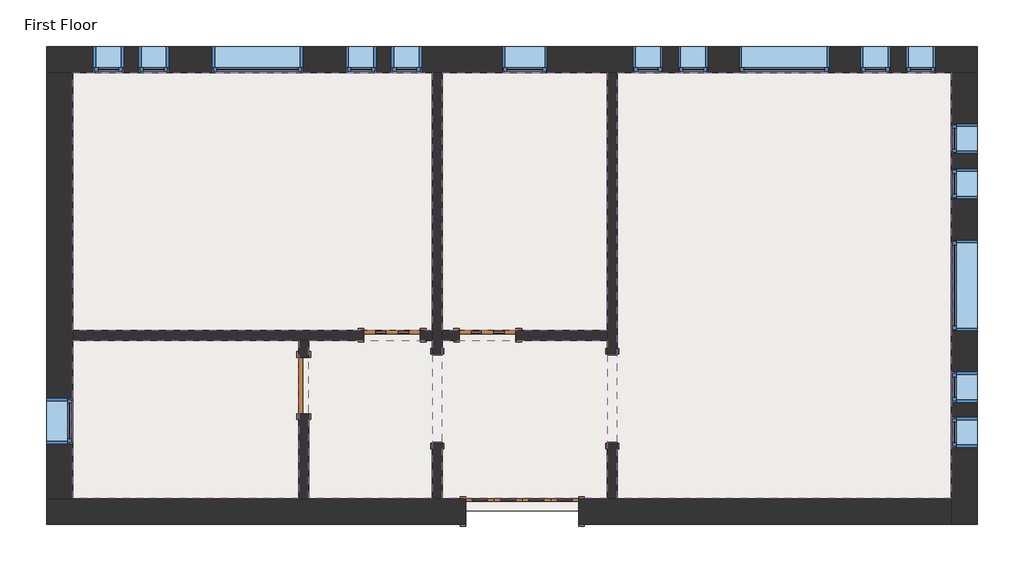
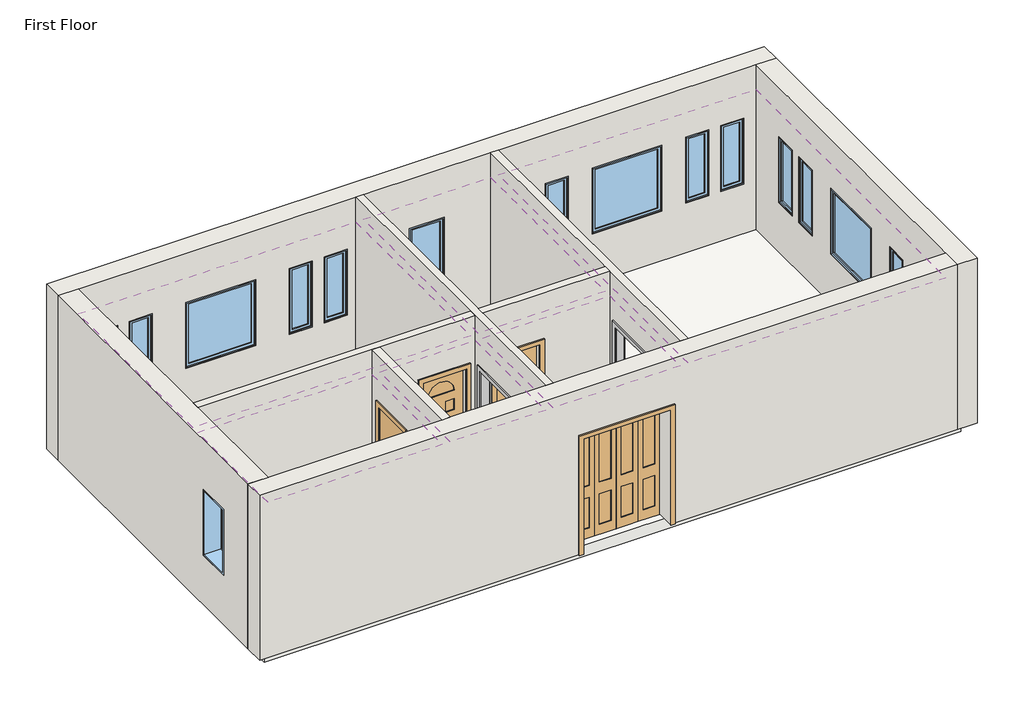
# One storey: 17 windows, 8 walls, 7 coverings, 4 doors, 2 proxies, 1 slab.
"""IFC4 building model written with IfcOpenShell, lengths in millimetres."""

from ifc_helpers import new_model, si_unit, frame, origin, place, context, project, spatial, polyline, outline, extrude, faceted_brep, transform, mapped, element, save
from components import m_passage_opening_cased_1220_x_2134mm_87a8d9c2, m_bifold_4_panel_1525_x_2134mm_1ddae71f, m_single_decorative_2_0762_x_2134mm_0d0af7cb, m_single_decorative_2_0762_x_2134mm_2fe67c8e, m_single_flush_0762_x_2134mm_0d89e411, m_fixed_0406_x_1220mm_57fee329, m_fixed_0406_x_1220mm_85c28f40, m_fixed_0610_x_1220mm_2c28ef1d, m_fixed_1220_x_1220mm_e08ff7af

model = new_model("IFC4")

# Units and contexts
model_context = context("Model", 3, world=origin())
ifc_project = project(units=[si_unit("LENGTHUNIT", "METRE", prefix="MILLI")], contexts=[model_context])

# Site, building, storey
site = spatial("IfcSite", under=ifc_project)
building = spatial("IfcBuilding", under=site)
storey = spatial("IfcBuildingStorey", under=building, Name="First Floor", Elevation=0.0)

# Proxies
placement = place(None, origin())
m_passage_opening_cased_1220_x_2134mm_shape = m_passage_opening_cased_1220_x_2134mm_87a8d9c2(model_context)
element("IfcBuildingElementProxy", 1, Name="M_Passage Opening-Cased : 1220 x 2134mm", ObjectType="M_Passage Opening-Cased : 1220 x 2134mm", at=placement, inside=storey, context=model_context, shape_type="MappedRepresentation", body=[
    mapped(m_passage_opening_cased_1220_x_2134mm_shape, transform((-7665.3416203, -1982.6925047, 0.0), x_axis=(0.0, 1.0, 0.0), y_axis=(-1.0, 0.0, 0.0), z_axis=(0.0, 0.0, 1.0))),
])
element("IfcBuildingElementProxy", 2, Name="M_Passage Opening-Cased : 1220 x 2134mm", ObjectType="M_Passage Opening-Cased : 1220 x 2134mm", at=placement, inside=storey, context=model_context, shape_type="MappedRepresentation", body=[
    mapped(m_passage_opening_cased_1220_x_2134mm_shape, transform((-10019.0916203, -1999.0698181, 0.0), x_axis=(0.0, -1.0, 0.0), y_axis=(1.0, 0.0, 0.0), z_axis=(0.0, 0.0, 1.0))),
])

# Coverings
element("IfcCovering", 3, ObjectType="Plain", at=placement, inside=storey, context=model_context, shape_type="SweptSolid", body=[
    extrude(outline(polyline([(-14935.3416203, 2406.1188386), (-10086.8416203, 2406.1188386), (-10086.8416203, -1070.3811614), (-14935.3416203, -1070.3811614), (-14935.3416203, 2406.1188386)])), frame((0.0, 0.0, 2590.0), z_axis=(0.0, 0.0, 1.0), x_axis=(1.0, 0.0, 0.0)), (0.0, 0.0, 1.0), 57.0),
])
element("IfcCovering", 4, ObjectType="Plain", at=placement, inside=storey, context=model_context, shape_type="SweptSolid", body=[
    extrude(outline(polyline([(-9951.3416203, -1070.3811614), (-9951.3416203, 2406.1188386), (-7733.0916203, 2406.1188386), (-7733.0916203, -1070.3811614), (-9951.3416203, -1070.3811614)])), frame((0.0, 0.0, 2590.0), z_axis=(0.0, 0.0, 1.0), x_axis=(1.0, 0.0, 0.0)), (0.0, 0.0, 1.0), 57.0),
])
element("IfcCovering", 5, ObjectType="Plain", at=placement, inside=storey, context=model_context, shape_type="SweptSolid", body=[
    extrude(outline(polyline([(-7597.5916203, -3339.8811614), (-7597.5916203, 2406.1188386), (-3093.3416203, 2406.1188386), (-3093.3416203, -3339.8811614), (-7597.5916203, -3339.8811614)])), frame((0.0, 0.0, 2590.0), z_axis=(0.0, 0.0, 1.0), x_axis=(1.0, 0.0, 0.0)), (0.0, 0.0, 1.0), 57.0),
])
element("IfcCovering", 6, ObjectType="Plain", at=placement, inside=storey, context=model_context, shape_type="SweptSolid", body=[
    extrude(outline(polyline([(-7733.0916203, -3339.8811614), (-9951.3416203, -3339.8811614), (-9951.3416203, -1205.8811614), (-7733.0916203, -1205.8811614), (-7733.0916203, -3339.8811614)])), frame((0.0, 0.0, 2590.0), z_axis=(0.0, 0.0, 1.0), x_axis=(1.0, 0.0, 0.0)), (0.0, 0.0, 1.0), 57.0),
])
element("IfcCovering", 7, ObjectType="Plain", at=placement, inside=storey, context=model_context, shape_type="SweptSolid", body=[
    extrude(outline(polyline([(-11887.3416203, -1205.8811614), (-11887.3416203, -3339.8811614), (-14935.3416203, -3339.8811614), (-14935.3416203, -1205.8811614), (-11887.3416203, -1205.8811614)])), frame((0.0, 0.0, 2590.0), z_axis=(0.0, 0.0, 1.0), x_axis=(1.0, 0.0, 0.0)), (0.0, 0.0, 1.0), 57.0),
])
element("IfcCovering", 8, ObjectType="Plain", at=placement, inside=storey, context=model_context, shape_type="SweptSolid", body=[
    extrude(outline(polyline([(-10086.8416203, -3339.8811614), (-11751.8416203, -3339.8811614), (-11751.8416203, -1205.8811614), (-10086.8416203, -1205.8811614), (-10086.8416203, -3339.8811614)])), frame((0.0, 0.0, 2590.0), z_axis=(0.0, 0.0, 1.0), x_axis=(1.0, 0.0, 0.0)), (0.0, 0.0, 1.0), 57.0),
])
element("IfcCovering", 9, ObjectType="Plain", at=placement, inside=storey, context=model_context, shape_type="SweptSolid", body=[
    extrude(outline(polyline([(-14935.3416203, 2406.1188386), (-10086.8416203, 2406.1188386), (-10086.8416203, -1070.3811614), (-14935.3416203, -1070.3811614), (-14935.3416203, 2406.1188386)])), frame((0.0, 0.0, 2590.0), z_axis=(0.0, 0.0, 1.0), x_axis=(1.0, 0.0, 0.0)), (0.0, 0.0, 1.0), 57.0),
])

# Doors
m_bifold_4_panel_1525_x_2134mm_shape = m_bifold_4_panel_1525_x_2134mm_1ddae71f(model_context)
element("IfcDoor", 10, ObjectType="M_Bifold-4 Panel : 1525 x 2134mm", at=placement, inside=storey, context=model_context, shape_type="MappedRepresentation", body=[
    mapped(m_bifold_4_panel_1525_x_2134mm_shape, transform((-8876.0916203, -3514.8811614, 0.0), x_axis=(1.0, 0.0, 0.0), y_axis=(0.0, 1.0, 0.0), z_axis=(0.0, 0.0, 1.0))),
])
m_single_decorative_2_0762_x_2134mm_shape = m_single_decorative_2_0762_x_2134mm_0d0af7cb(model_context)
element("IfcDoor", 11, ObjectType="M_Single-Decorative 2 : 0762 x 2134mm", at=placement, inside=storey, context=model_context, shape_type="MappedRepresentation", body=[
    mapped(m_single_decorative_2_0762_x_2134mm_shape, transform((-9342.3416203, -1138.1311614, 0.0), x_axis=(-1.0, 0.0, 0.0), y_axis=(0.0, -1.0, 0.0), z_axis=(0.0, 0.0, 1.0))),
])
m_single_decorative_2_0762_x_2134mm_2_shape = m_single_decorative_2_0762_x_2134mm_2fe67c8e(model_context)
element("IfcDoor", 12, ObjectType="M_Single-Decorative 2 : 0762 x 2134mm", at=placement, inside=storey, context=model_context, shape_type="MappedRepresentation", body=[
    mapped(m_single_decorative_2_0762_x_2134mm_2_shape, transform((-10629.0916203, -1138.1311614, 0.0), x_axis=(1.0, 0.0, 0.0), y_axis=(0.0, 1.0, 0.0), z_axis=(0.0, 0.0, 1.0))),
])
m_single_flush_0762_x_2134mm_shape = m_single_flush_0762_x_2134mm_0d89e411(model_context)
element("IfcDoor", 13, ObjectType="M_Single-Flush : 0762 x 2134mm", at=placement, inside=storey, context=model_context, shape_type="MappedRepresentation", body=[
    mapped(m_single_flush_0762_x_2134mm_shape, transform((-11819.5916203, -1815.8811614, 0.0), x_axis=(0.0, 1.0, 0.0), y_axis=(-1.0, 0.0, 0.0), z_axis=(0.0, 0.0, 1.0))),
])

# Slab
element("IfcSlab", 14, ObjectType="160mm Concrete With 50mm Metal Deck", at=placement, inside=storey, context=model_context, shape_type="SweptSolid", body=[
    extrude(outline(polyline([(-2928.3416203, 2571.1188386), (-2928.3416203, -3504.8811614), (-15100.3416203, -3504.8811614), (-15100.3416203, 2571.1188386), (-2928.3416203, 2571.1188386)])), frame((0.0, 0.0, -210.0), z_axis=(0.0, 0.0, 1.0), x_axis=(1.0, 0.0, 0.0)), (0.0, 0.0, 1.0), 210.0),
])

# Walls
element("IfcWall", 15, ObjectType="Exterior - Brick on Mtl. Stud", at=placement, inside=storey, context=model_context, shape_type="Brep", body=[
    faceted_brep([(-15285.3416203, 2406.1188386, 0.0), (-15100.3416203, 2406.1188386, 0.0), (-14935.3416203, 2406.1188386, 0.0), (-10086.8416203, 2406.1188386, 0.0), (-9951.3416203, 2406.1188386, 0.0), (-7733.0916203, 2406.1188386, 0.0), (-7597.5916203, 2406.1188386, 0.0), (-3093.3416203, 2406.1188386, 0.0), (-2928.3416203, 2406.1188386, 0.0), (-2743.3416203, 2406.1188386, 0.0), (-2743.3416203, 2406.1188386, 3048.0), (-3093.3416203, 2406.1188386, 3048.0), (-7597.5916203, 2406.1188386, 3048.0), (-7733.0916203, 2406.1188386, 3048.0), (-9951.3416203, 2406.1188386, 3048.0), (-10086.8416203, 2406.1188386, 3048.0), (-14935.3416203, 2406.1188386, 3048.0), (-15285.3416203, 2406.1188386, 3048.0), (-8537.1916203, 2406.1188386, 915.0), (-9147.1916203, 2406.1188386, 915.0), (-9147.1916203, 2406.1188386, 2135.0), (-8537.1916203, 2406.1188386, 2135.0), (-11833.3416203, 2406.1188386, 915.0), (-13053.3416203, 2406.1188386, 915.0), (-13053.3416203, 2406.1188386, 2135.0), (-11833.3416203, 2406.1188386, 2135.0), (-4735.4666203, 2406.1188386, 915.0), (-5955.4666203, 2406.1188386, 915.0), (-5955.4666203, 2406.1188386, 2135.0), (-4735.4666203, 2406.1188386, 2135.0), (-14247.3416203, 2406.1188386, 915.0), (-14653.3416203, 2406.1188386, 915.0), (-14653.3416203, 2406.1188386, 2135.0), (-14247.3416203, 2406.1188386, 2135.0), (-13637.3416203, 2406.1188386, 915.0), (-14043.3416203, 2406.1188386, 915.0), (-14043.3416203, 2406.1188386, 2135.0), (-13637.3416203, 2406.1188386, 2135.0), (-11249.3416203, 2406.1188386, 915.0), (-11249.3416203, 2406.1188386, 2135.0), (-10843.3416203, 2406.1188386, 2135.0), (-10843.3416203, 2406.1188386, 915.0), (-10639.3416203, 2406.1188386, 915.0), (-10639.3416203, 2406.1188386, 2135.0), (-10233.3416203, 2406.1188386, 2135.0), (-10233.3416203, 2406.1188386, 915.0), (-6370.3416203, 2406.1188386, 915.0), (-6776.3416203, 2406.1188386, 915.0), (-6776.3416203, 2406.1188386, 2135.0), (-6370.3416203, 2406.1188386, 2135.0), (-6980.3416203, 2406.1188386, 915.0), (-7386.3416203, 2406.1188386, 915.0), (-7386.3416203, 2406.1188386, 2135.0), (-6980.3416203, 2406.1188386, 2135.0), (-4320.5916203, 2406.1188386, 915.0), (-4320.5916203, 2406.1188386, 2135.0), (-3914.5916203, 2406.1188386, 2135.0), (-3914.5916203, 2406.1188386, 915.0), (-3710.5916203, 2406.1188386, 915.0), (-3710.5916203, 2406.1188386, 2135.0), (-3304.5916203, 2406.1188386, 2135.0), (-3304.5916203, 2406.1188386, 915.0), (-15285.3416203, 2756.1188386, 0.0), (-15285.3416203, 2756.1188386, 3048.0), (-2743.3416203, 2756.1188386, 3048.0), (-2743.3416203, 2756.1188386, 0.0), (-2928.3416203, 2756.1188386, 0.0), (-15100.3416203, 2756.1188386, 0.0), (-8537.1916203, 2756.1188386, 915.0), (-8537.1916203, 2756.1188386, 2135.0), (-9147.1916203, 2756.1188386, 2135.0), (-9147.1916203, 2756.1188386, 915.0), (-11833.3416203, 2756.1188386, 915.0), (-11833.3416203, 2756.1188386, 2135.0), (-13053.3416203, 2756.1188386, 2135.0), (-13053.3416203, 2756.1188386, 915.0), (-4735.4666203, 2756.1188386, 915.0), (-4735.4666203, 2756.1188386, 2135.0), (-5955.4666203, 2756.1188386, 2135.0), (-5955.4666203, 2756.1188386, 915.0), (-14247.3416203, 2756.1188386, 915.0), (-14247.3416203, 2756.1188386, 2135.0), (-14653.3416203, 2756.1188386, 2135.0), (-14653.3416203, 2756.1188386, 915.0), (-13637.3416203, 2756.1188386, 915.0), (-13637.3416203, 2756.1188386, 2135.0), (-14043.3416203, 2756.1188386, 2135.0), (-14043.3416203, 2756.1188386, 915.0), (-11249.3416203, 2756.1188386, 915.0), (-10843.3416203, 2756.1188386, 915.0), (-10843.3416203, 2756.1188386, 2135.0), (-11249.3416203, 2756.1188386, 2135.0), (-10639.3416203, 2756.1188386, 915.0), (-10233.3416203, 2756.1188386, 915.0), (-10233.3416203, 2756.1188386, 2135.0), (-10639.3416203, 2756.1188386, 2135.0), (-6370.3416203, 2756.1188386, 915.0), (-6370.3416203, 2756.1188386, 2135.0), (-6776.3416203, 2756.1188386, 2135.0), (-6776.3416203, 2756.1188386, 915.0), (-6980.3416203, 2756.1188386, 915.0), (-6980.3416203, 2756.1188386, 2135.0), (-7386.3416203, 2756.1188386, 2135.0), (-7386.3416203, 2756.1188386, 915.0), (-4320.5916203, 2756.1188386, 915.0), (-3914.5916203, 2756.1188386, 915.0), (-3914.5916203, 2756.1188386, 2135.0), (-4320.5916203, 2756.1188386, 2135.0), (-3710.5916203, 2756.1188386, 915.0), (-3304.5916203, 2756.1188386, 915.0), (-3304.5916203, 2756.1188386, 2135.0), (-3710.5916203, 2756.1188386, 2135.0), (-2743.3416203, 2571.1188386, 0.0), (-15285.3416203, 2571.1188386, 0.0), (-15100.3416203, 2571.1188386, 0.0), (-2928.3416203, 2571.1188386, 0.0)], [[[0, 1, 2, 3, 4, 5, 6, 7, 8, 9, 10, 11, 12, 13, 14, 15, 16, 17], [18, 19, 20, 21], [22, 23, 24, 25], [26, 27, 28, 29], [30, 31, 32, 33], [34, 35, 36, 37], [38, 39, 40, 41], [42, 43, 44, 45], [46, 47, 48, 49], [50, 51, 52, 53], [54, 55, 56, 57], [58, 59, 60, 61]], [[62, 63, 64, 65, 66, 67], [68, 69, 70, 71], [72, 73, 74, 75], [76, 77, 78, 79], [80, 81, 82, 83], [84, 85, 86, 87], [88, 89, 90, 91], [92, 93, 94, 95], [96, 97, 98, 99], [100, 101, 102, 103], [104, 105, 106, 107], [108, 109, 110, 111]], [[17, 16, 15, 14, 13, 12, 11, 10, 64, 63]], [[10, 9, 112, 65, 64]], [[0, 17, 63, 62, 113]], [[69, 68, 18, 21]], [[70, 69, 21, 20]], [[71, 70, 20, 19]], [[68, 71, 19, 18]], [[73, 72, 22, 25]], [[74, 73, 25, 24]], [[75, 74, 24, 23]], [[72, 75, 23, 22]], [[77, 76, 26, 29]], [[78, 77, 29, 28]], [[79, 78, 28, 27]], [[76, 79, 27, 26]], [[81, 80, 30, 33]], [[82, 81, 33, 32]], [[83, 82, 32, 31]], [[80, 83, 31, 30]], [[85, 84, 34, 37]], [[86, 85, 37, 36]], [[87, 86, 36, 35]], [[84, 87, 35, 34]], [[39, 38, 88, 91]], [[40, 39, 91, 90]], [[41, 40, 90, 89]], [[38, 41, 89, 88]], [[43, 42, 92, 95]], [[44, 43, 95, 94]], [[45, 44, 94, 93]], [[42, 45, 93, 92]], [[97, 96, 46, 49]], [[98, 97, 49, 48]], [[99, 98, 48, 47]], [[96, 99, 47, 46]], [[101, 100, 50, 53]], [[102, 101, 53, 52]], [[103, 102, 52, 51]], [[100, 103, 51, 50]], [[55, 54, 104, 107]], [[56, 55, 107, 106]], [[57, 56, 106, 105]], [[54, 57, 105, 104]], [[59, 58, 108, 111]], [[60, 59, 111, 110]], [[61, 60, 110, 109]], [[58, 61, 109, 108]], [[1, 0, 113, 114]], [[113, 62, 67, 114]], [[9, 8, 115, 112]], [[67, 66, 115, 114]], [[66, 65, 112, 115]], [[8, 7, 6, 5, 4, 3, 2, 1, 114, 115]]]),
])
element("IfcWall", 16, ObjectType="Exterior - Brick on Mtl. Stud", at=placement, inside=storey, context=model_context, shape_type="Brep", body=[
    faceted_brep([(-3093.3416203, 2406.1188386, 0.0), (-3093.3416203, -3339.8811614, 0.0), (-3093.3416203, -3504.8811614, 0.0), (-3093.3416203, -3689.8811614, 0.0), (-3093.3416203, -3689.8811614, 3048.0), (-3093.3416203, -3339.8811614, 3048.0), (-3093.3416203, 2406.1188386, 3048.0), (-3093.3416203, -1076.8811614, 915.0), (-3093.3416203, 143.1188386, 915.0), (-3093.3416203, 143.1188386, 2135.0), (-3093.3416203, -1076.8811614, 2135.0), (-3093.3416203, 701.1188386, 915.0), (-3093.3416203, 1107.1188386, 915.0), (-3093.3416203, 1107.1188386, 2135.0), (-3093.3416203, 701.1188386, 2135.0), (-3093.3416203, 1311.1188386, 915.0), (-3093.3416203, 1717.1188386, 915.0), (-3093.3416203, 1717.1188386, 2135.0), (-3093.3416203, 1311.1188386, 2135.0), (-3093.3416203, -1634.8811614, 915.0), (-3093.3416203, -1634.8811614, 2135.0), (-3093.3416203, -2040.8811614, 2135.0), (-3093.3416203, -2040.8811614, 915.0), (-3093.3416203, -2244.8811614, 915.0), (-3093.3416203, -2244.8811614, 2135.0), (-3093.3416203, -2650.8811614, 2135.0), (-3093.3416203, -2650.8811614, 915.0), (-2743.3416203, 2406.1188386, 0.0), (-2743.3416203, 2406.1188386, 3048.0), (-2743.3416203, -3689.8811614, 3048.0), (-2743.3416203, -3689.8811614, 0.0), (-2743.3416203, -3504.8811614, 0.0), (-2743.3416203, -1076.8811614, 915.0), (-2743.3416203, -1076.8811614, 2135.0), (-2743.3416203, 143.1188386, 2135.0), (-2743.3416203, 143.1188386, 915.0), (-2743.3416203, 701.1188386, 915.0), (-2743.3416203, 701.1188386, 2135.0), (-2743.3416203, 1107.1188386, 2135.0), (-2743.3416203, 1107.1188386, 915.0), (-2743.3416203, 1311.1188386, 915.0), (-2743.3416203, 1311.1188386, 2135.0), (-2743.3416203, 1717.1188386, 2135.0), (-2743.3416203, 1717.1188386, 915.0), (-2743.3416203, -1634.8811614, 915.0), (-2743.3416203, -2040.8811614, 915.0), (-2743.3416203, -2040.8811614, 2135.0), (-2743.3416203, -1634.8811614, 2135.0), (-2743.3416203, -2244.8811614, 915.0), (-2743.3416203, -2650.8811614, 915.0), (-2743.3416203, -2650.8811614, 2135.0), (-2743.3416203, -2244.8811614, 2135.0), (-2928.3416203, 2406.1188386, 0.0), (-2928.3416203, -3689.8811614, 0.0), (-2928.3416203, -3504.8811614, 0.0)], [[[0, 1, 2, 3, 4, 5, 6], [7, 8, 9, 10], [11, 12, 13, 14], [15, 16, 17, 18], [19, 20, 21, 22], [23, 24, 25, 26]], [[27, 28, 29, 30, 31], [32, 33, 34, 35], [36, 37, 38, 39], [40, 41, 42, 43], [44, 45, 46, 47], [48, 49, 50, 51]], [[6, 5, 4, 29, 28]], [[0, 6, 28, 27, 52]], [[4, 3, 53, 30, 29]], [[33, 32, 7, 10]], [[34, 33, 10, 9]], [[35, 34, 9, 8]], [[32, 35, 8, 7]], [[37, 36, 11, 14]], [[38, 37, 14, 13]], [[39, 38, 13, 12]], [[36, 39, 12, 11]], [[41, 40, 15, 18]], [[42, 41, 18, 17]], [[43, 42, 17, 16]], [[40, 43, 16, 15]], [[20, 19, 44, 47]], [[21, 20, 47, 46]], [[22, 21, 46, 45]], [[19, 22, 45, 44]], [[24, 23, 48, 51]], [[25, 24, 51, 50]], [[26, 25, 50, 49]], [[23, 26, 49, 48]], [[52, 27, 31, 54]], [[3, 2, 54, 53]], [[54, 31, 30, 53]], [[2, 1, 0, 52, 54]]]),
])
element("IfcWall", 17, ObjectType="Exterior - Brick on Mtl. Stud", at=placement, inside=storey, context=model_context, shape_type="Brep", body=[
    faceted_brep([(-15285.3416203, -3339.8811614, 3048.0), (-14935.3416203, -3339.8811614, 3048.0), (-11887.3416203, -3339.8811614, 3048.0), (-11751.8416203, -3339.8811614, 3048.0), (-10086.8416203, -3339.8811614, 3048.0), (-9951.3416203, -3339.8811614, 3048.0), (-7733.0916203, -3339.8811614, 3048.0), (-7597.5916203, -3339.8811614, 3048.0), (-3093.3416203, -3339.8811614, 3048.0), (-3093.3416203, -3339.8811614, 0.0), (-7597.5916203, -3339.8811614, 0.0), (-7733.0916203, -3339.8811614, 0.0), (-8113.5916203, -3339.8811614, 0.0), (-8113.5916203, -3339.8811614, 2134.0), (-9638.5916203, -3339.8811614, 2134.0), (-9638.5916203, -3339.8811614, 0.0), (-9951.3416203, -3339.8811614, 0.0), (-10086.8416203, -3339.8811614, 0.0), (-11751.8416203, -3339.8811614, 0.0), (-11887.3416203, -3339.8811614, 0.0), (-14935.3416203, -3339.8811614, 0.0), (-15285.3416203, -3339.8811614, 0.0), (-3093.3416203, -3689.8811614, 3048.0), (-15285.3416203, -3689.8811614, 3048.0), (-15285.3416203, -3689.8811614, 0.0), (-9638.5916203, -3689.8811614, 0.0), (-9638.5916203, -3689.8811614, 2134.0), (-8113.5916203, -3689.8811614, 2134.0), (-8113.5916203, -3689.8811614, 0.0), (-3093.3416203, -3689.8811614, 0.0)], [[[0, 1, 2, 3, 4, 5, 6, 7, 8, 9, 10, 11, 12, 13, 14, 15, 16, 17, 18, 19, 20, 21]], [[22, 23, 24, 25, 26, 27, 28, 29]], [[9, 29, 28, 12, 11, 10]], [[24, 21, 20, 19, 18, 17, 16, 15, 25]], [[8, 7, 6, 5, 4, 3, 2, 1, 0, 23, 22]], [[9, 8, 22, 29]], [[0, 21, 24, 23]], [[27, 13, 12, 28]], [[13, 27, 26, 14]], [[14, 26, 25, 15]]]),
])
element("IfcWall", 18, ObjectType="Exterior - Brick on Mtl. Stud", at=placement, inside=storey, context=model_context, shape_type="Brep", body=[
    faceted_brep([(-14935.3416203, -3339.8811614, 0.0), (-14935.3416203, -1205.8811614, 0.0), (-14935.3416203, -1070.3811614, 0.0), (-14935.3416203, 2406.1188386, 0.0), (-14935.3416203, 2406.1188386, 3048.0), (-14935.3416203, -1070.3811614, 3048.0), (-14935.3416203, -1205.8811614, 3048.0), (-14935.3416203, -3339.8811614, 3048.0), (-14935.3416203, -1989.8811614, 915.0), (-14935.3416203, -2599.8811614, 915.0), (-14935.3416203, -2599.8811614, 2135.0), (-14935.3416203, -1989.8811614, 2135.0), (-15285.3416203, -3339.8811614, 0.0), (-15285.3416203, -3339.8811614, 3048.0), (-15285.3416203, 2406.1188386, 3048.0), (-15285.3416203, 2406.1188386, 0.0), (-15285.3416203, -1989.8811614, 915.0), (-15285.3416203, -1989.8811614, 2135.0), (-15285.3416203, -2599.8811614, 2135.0), (-15285.3416203, -2599.8811614, 915.0), (-15100.3416203, -3339.8811614, 0.0), (-15100.3416203, 2406.1188386, 0.0)], [[[0, 1, 2, 3, 4, 5, 6, 7], [8, 9, 10, 11]], [[12, 13, 14, 15], [16, 17, 18, 19]], [[7, 6, 5, 4, 14, 13]], [[0, 7, 13, 12, 20]], [[4, 3, 21, 15, 14]], [[17, 16, 8, 11]], [[18, 17, 11, 10]], [[19, 18, 10, 9]], [[16, 19, 9, 8]], [[20, 12, 15, 21]], [[3, 2, 1, 0, 20, 21]]]),
])
element("IfcWall", 19, ObjectType="Interior - 135mm Partition (2-hr)", at=placement, inside=storey, context=model_context, shape_type="Brep", body=[
    faceted_brep([(-7733.0916203, 2406.1188386, 0.0), (-7733.0916203, -1070.3811614, 0.0), (-7733.0916203, -1205.8811614, 0.0), (-7733.0916203, -1380.8811614, 0.0), (-7733.0916203, -1380.8811614, 2134.0), (-7733.0916203, -2600.8811614, 2134.0), (-7733.0916203, -2600.8811614, 0.0), (-7733.0916203, -3339.8811614, 0.0), (-7733.0916203, -3339.8811614, 3048.0), (-7733.0916203, -1205.8811614, 3048.0), (-7733.0916203, -1070.3811614, 3048.0), (-7733.0916203, 2406.1188386, 3048.0), (-7597.5916203, -1380.8811614, 2134.0), (-7597.5916203, -1380.8811614, 0.0), (-7597.5916203, 2406.1188386, 0.0), (-7597.5916203, 2406.1188386, 3048.0), (-7597.5916203, -3339.8811614, 3048.0), (-7597.5916203, -3339.8811614, 0.0), (-7597.5916203, -2600.8811614, 0.0), (-7597.5916203, -2600.8811614, 2134.0)], [[[0, 1, 2, 3, 4, 5, 6, 7, 8, 9, 10, 11]], [[12, 13, 14, 15, 16, 17, 18, 19]], [[18, 17, 7, 6]], [[14, 13, 3, 2, 1, 0]], [[11, 10, 9, 8, 16, 15]], [[0, 11, 15, 14]], [[8, 7, 17, 16]], [[6, 5, 19, 18]], [[4, 3, 13, 12]], [[5, 4, 12, 19]]]),
])
element("IfcWall", 20, ObjectType="Interior - 135mm Partition (2-hr)", at=placement, inside=storey, context=model_context, shape_type="Brep", body=[
    faceted_brep([(-10086.8416203, -2600.8811614, 2134.0), (-10086.8416203, -2600.8811614, 0.0), (-10086.8416203, -3339.8811614, 0.0), (-10086.8416203, -3339.8811614, 3048.0), (-10086.8416203, -1205.8811614, 3048.0), (-10086.8416203, -1070.3811614, 3048.0), (-10086.8416203, 2406.1188386, 3048.0), (-10086.8416203, 2406.1188386, 0.0), (-10086.8416203, -1070.3811614, 0.0), (-10086.8416203, -1205.8811614, 0.0), (-10086.8416203, -1380.8811614, 0.0), (-10086.8416203, -1380.8811614, 2134.0), (-9951.3416203, -3339.8811614, 0.0), (-9951.3416203, -2600.8811614, 0.0), (-9951.3416203, -2600.8811614, 2134.0), (-9951.3416203, -1380.8811614, 2134.0), (-9951.3416203, -1380.8811614, 0.0), (-9951.3416203, -1205.8811614, 0.0), (-9951.3416203, -1070.3811614, 0.0), (-9951.3416203, 2406.1188386, 0.0), (-9951.3416203, 2406.1188386, 3048.0), (-9951.3416203, -1070.3811614, 3048.0), (-9951.3416203, -1205.8811614, 3048.0), (-9951.3416203, -3339.8811614, 3048.0)], [[[0, 1, 2, 3, 4, 5, 6, 7, 8, 9, 10, 11]], [[12, 13, 14, 15, 16, 17, 18, 19, 20, 21, 22, 23]], [[2, 1, 13, 12]], [[10, 9, 8, 7, 19, 18, 17, 16]], [[6, 5, 4, 3, 23, 22, 21, 20]], [[7, 6, 20, 19]], [[3, 2, 12, 23]], [[16, 15, 11, 10]], [[14, 13, 1, 0]], [[15, 14, 0, 11]]]),
])
element("IfcWall", 21, ObjectType="Interior - 135mm Partition (2-hr)", at=placement, inside=storey, context=model_context, shape_type="Brep", body=[
    faceted_brep([(-14935.3416203, -1205.8811614, 3048.0), (-14935.3416203, -1205.8811614, 0.0), (-11887.3416203, -1205.8811614, 0.0), (-11751.8416203, -1205.8811614, 0.0), (-11010.0916203, -1205.8811614, 0.0), (-11010.0916203, -1205.8811614, 2134.0), (-10248.0916203, -1205.8811614, 2134.0), (-10248.0916203, -1205.8811614, 0.0), (-10086.8416203, -1205.8811614, 0.0), (-10086.8416203, -1205.8811614, 3048.0), (-11751.8416203, -1205.8811614, 3048.0), (-11887.3416203, -1205.8811614, 3048.0), (-14935.3416203, -1070.3811614, 0.0), (-14935.3416203, -1070.3811614, 3048.0), (-10086.8416203, -1070.3811614, 3048.0), (-10086.8416203, -1070.3811614, 0.0), (-10248.0916203, -1070.3811614, 0.0), (-10248.0916203, -1070.3811614, 2134.0), (-11010.0916203, -1070.3811614, 2134.0), (-11010.0916203, -1070.3811614, 0.0)], [[[0, 1, 2, 3, 4, 5, 6, 7, 8, 9, 10, 11]], [[12, 13, 14, 15, 16, 17, 18, 19]], [[1, 12, 19, 4, 3, 2]], [[7, 16, 15, 8]], [[13, 0, 11, 10, 9, 14]], [[1, 0, 13, 12]], [[9, 8, 15, 14]], [[17, 16, 7, 6]], [[18, 17, 6, 5]], [[19, 18, 5, 4]]]),
    faceted_brep([(-7733.0916203, -1205.8811614, 0.0), (-7733.0916203, -1205.8811614, 3048.0), (-9951.3416203, -1205.8811614, 3048.0), (-9951.3416203, -1205.8811614, 0.0), (-9723.3416203, -1205.8811614, 0.0), (-9723.3416203, -1205.8811614, 2134.0), (-8961.3416203, -1205.8811614, 2134.0), (-8961.3416203, -1205.8811614, 0.0), (-7733.0916203, -1070.3811614, 3048.0), (-7733.0916203, -1070.3811614, 0.0), (-8961.3416203, -1070.3811614, 0.0), (-8961.3416203, -1070.3811614, 2134.0), (-9723.3416203, -1070.3811614, 2134.0), (-9723.3416203, -1070.3811614, 0.0), (-9951.3416203, -1070.3811614, 0.0), (-9951.3416203, -1070.3811614, 3048.0)], [[[0, 1, 2, 3, 4, 5, 6, 7]], [[8, 9, 10, 11, 12, 13, 14, 15]], [[9, 0, 7, 10]], [[13, 4, 3, 14]], [[1, 8, 15, 2]], [[1, 0, 9, 8]], [[3, 2, 15, 14]], [[5, 4, 13, 12]], [[6, 5, 12, 11]], [[7, 6, 11, 10]]]),
])
element("IfcWall", 22, ObjectType="Interior - 135mm Partition (2-hr)", at=placement, inside=storey, context=model_context, shape_type="SweptSolid", body=[
    extrude(outline(polyline([(-1205.8811614, 0.0), (-1434.8811614, 0.0), (-1434.8811614, 2134.0), (-2196.8811614, 2134.0), (-2196.8811614, 0.0), (-3339.8811614, 0.0), (-3339.8811614, 3048.0), (-1205.8811614, 3048.0), (-1205.8811614, 0.0)])), frame((-11887.3416203, 0.0, 0.0), z_axis=(1.0, 0.0, 0.0), x_axis=(0.0, 1.0, 0.0)), (0.0, 0.0, 1.0), 135.5),
])

# Windows
m_fixed_0406_x_1220mm_shape = m_fixed_0406_x_1220mm_57fee329(model_context)
element("IfcWindow", 23, ObjectType="M_Fixed : 0406 x 1220mm", at=placement, inside=storey, context=model_context, shape_type="MappedRepresentation", body=[
    mapped(m_fixed_0406_x_1220mm_shape, transform((-14450.3416203, 2594.1188386, 0.0), x_axis=(-1.0, 0.0, 0.0), y_axis=(0.0, -1.0, 0.0), z_axis=(0.0, 0.0, 1.0))),
])
element("IfcWindow", 24, ObjectType="M_Fixed : 0406 x 1220mm", at=placement, inside=storey, context=model_context, shape_type="MappedRepresentation", body=[
    mapped(m_fixed_0406_x_1220mm_shape, transform((-13840.3416203, 2594.1188386, 0.0), x_axis=(-1.0, 0.0, 0.0), y_axis=(0.0, -1.0, 0.0), z_axis=(0.0, 0.0, 1.0))),
])
element("IfcWindow", 25, ObjectType="M_Fixed : 0406 x 1220mm", at=placement, inside=storey, context=model_context, shape_type="MappedRepresentation", body=[
    mapped(m_fixed_0406_x_1220mm_shape, transform((-7183.3416203, 2594.1188386, 0.0), x_axis=(-1.0, 0.0, 0.0), y_axis=(0.0, -1.0, 0.0), z_axis=(0.0, 0.0, 1.0))),
])
element("IfcWindow", 26, ObjectType="M_Fixed : 0406 x 1220mm", at=placement, inside=storey, context=model_context, shape_type="MappedRepresentation", body=[
    mapped(m_fixed_0406_x_1220mm_shape, transform((-6573.3416203, 2594.1188386, 0.0), x_axis=(-1.0, 0.0, 0.0), y_axis=(0.0, -1.0, 0.0), z_axis=(0.0, 0.0, 1.0))),
])
element("IfcWindow", 27, ObjectType="M_Fixed : 0406 x 1220mm", at=placement, inside=storey, context=model_context, shape_type="MappedRepresentation", body=[
    mapped(m_fixed_0406_x_1220mm_shape, transform((-2905.3416203, 1514.1188386, 0.0), x_axis=(0.0, 1.0, 0.0), y_axis=(-1.0, 0.0, 0.0), z_axis=(0.0, 0.0, 1.0))),
])
element("IfcWindow", 28, ObjectType="M_Fixed : 0406 x 1220mm", at=placement, inside=storey, context=model_context, shape_type="MappedRepresentation", body=[
    mapped(m_fixed_0406_x_1220mm_shape, transform((-2905.3416203, 904.1188386, 0.0), x_axis=(0.0, 1.0, 0.0), y_axis=(-1.0, 0.0, 0.0), z_axis=(0.0, 0.0, 1.0))),
])
m_fixed_0406_x_1220mm_2_shape = m_fixed_0406_x_1220mm_85c28f40(model_context)
element("IfcWindow", 29, ObjectType="M_Fixed : 0406 x 1220mm", at=placement, inside=storey, context=model_context, shape_type="MappedRepresentation", body=[
    mapped(m_fixed_0406_x_1220mm_2_shape, transform((-10436.3416203, 2594.1188386, 0.0), x_axis=(1.0, 0.0, 0.0), y_axis=(0.0, 1.0, 0.0), z_axis=(0.0, 0.0, 1.0))),
])
element("IfcWindow", 30, ObjectType="M_Fixed : 0406 x 1220mm", at=placement, inside=storey, context=model_context, shape_type="MappedRepresentation", body=[
    mapped(m_fixed_0406_x_1220mm_2_shape, transform((-11046.3416203, 2594.1188386, 0.0), x_axis=(1.0, 0.0, 0.0), y_axis=(0.0, 1.0, 0.0), z_axis=(0.0, 0.0, 1.0))),
])
element("IfcWindow", 31, ObjectType="M_Fixed : 0406 x 1220mm", at=placement, inside=storey, context=model_context, shape_type="MappedRepresentation", body=[
    mapped(m_fixed_0406_x_1220mm_2_shape, transform((-3507.5916203, 2594.1188386, 0.0), x_axis=(1.0, 0.0, 0.0), y_axis=(0.0, 1.0, 0.0), z_axis=(0.0, 0.0, 1.0))),
])
element("IfcWindow", 32, ObjectType="M_Fixed : 0406 x 1220mm", at=placement, inside=storey, context=model_context, shape_type="MappedRepresentation", body=[
    mapped(m_fixed_0406_x_1220mm_2_shape, transform((-4117.5916203, 2594.1188386, 0.0), x_axis=(1.0, 0.0, 0.0), y_axis=(0.0, 1.0, 0.0), z_axis=(0.0, 0.0, 1.0))),
])
element("IfcWindow", 33, ObjectType="M_Fixed : 0406 x 1220mm", at=placement, inside=storey, context=model_context, shape_type="MappedRepresentation", body=[
    mapped(m_fixed_0406_x_1220mm_2_shape, transform((-2905.3416203, -2447.8811614, 0.0), x_axis=(0.0, -1.0, 0.0), y_axis=(1.0, 0.0, 0.0), z_axis=(0.0, 0.0, 1.0))),
])
element("IfcWindow", 34, ObjectType="M_Fixed : 0406 x 1220mm", at=placement, inside=storey, context=model_context, shape_type="MappedRepresentation", body=[
    mapped(m_fixed_0406_x_1220mm_2_shape, transform((-2905.3416203, -1837.8811614, 0.0), x_axis=(0.0, -1.0, 0.0), y_axis=(1.0, 0.0, 0.0), z_axis=(0.0, 0.0, 1.0))),
])
m_fixed_0610_x_1220mm_shape = m_fixed_0610_x_1220mm_2c28ef1d(model_context)
element("IfcWindow", 35, ObjectType="M_Fixed : 0610 x 1220mm", at=placement, inside=storey, context=model_context, shape_type="MappedRepresentation", body=[
    mapped(m_fixed_0610_x_1220mm_shape, transform((-8842.1916203, 2594.1188386, 0.0), x_axis=(-1.0, 0.0, 0.0), y_axis=(0.0, -1.0, 0.0), z_axis=(0.0, 0.0, 1.0))),
])
element("IfcWindow", 36, ObjectType="M_Fixed : 0610 x 1220mm", at=placement, inside=storey, context=model_context, shape_type="MappedRepresentation", body=[
    mapped(m_fixed_0610_x_1220mm_shape, transform((-15123.3416203, -2294.8811614, 0.0), x_axis=(0.0, -1.0, 0.0), y_axis=(1.0, 0.0, 0.0), z_axis=(0.0, 0.0, 1.0))),
])
m_fixed_1220_x_1220mm_shape = m_fixed_1220_x_1220mm_e08ff7af(model_context)
element("IfcWindow", 37, ObjectType="M_Fixed : 1220 x 1220mm", at=placement, inside=storey, context=model_context, shape_type="MappedRepresentation", body=[
    mapped(m_fixed_1220_x_1220mm_shape, transform((-12443.3416203, 2594.1188386, 0.0), x_axis=(-1.0, 0.0, 0.0), y_axis=(0.0, -1.0, 0.0), z_axis=(0.0, 0.0, 1.0))),
])
element("IfcWindow", 38, ObjectType="M_Fixed : 1220 x 1220mm", at=placement, inside=storey, context=model_context, shape_type="MappedRepresentation", body=[
    mapped(m_fixed_1220_x_1220mm_shape, transform((-5345.4666203, 2594.1188386, 0.0), x_axis=(-1.0, 0.0, 0.0), y_axis=(0.0, -1.0, 0.0), z_axis=(0.0, 0.0, 1.0))),
])
element("IfcWindow", 39, ObjectType="M_Fixed : 1220 x 1220mm", at=placement, inside=storey, context=model_context, shape_type="MappedRepresentation", body=[
    mapped(m_fixed_1220_x_1220mm_shape, transform((-2905.3416203, -466.8811614, 0.0), x_axis=(0.0, 1.0, 0.0), y_axis=(-1.0, 0.0, 0.0), z_axis=(0.0, 0.0, 1.0))),
])

save(model, "model.ifc")
